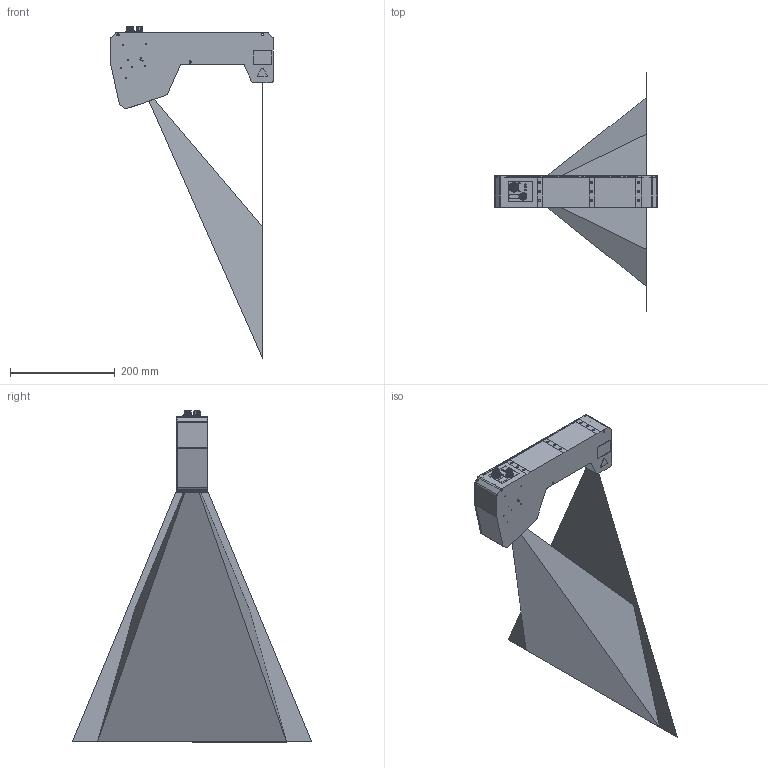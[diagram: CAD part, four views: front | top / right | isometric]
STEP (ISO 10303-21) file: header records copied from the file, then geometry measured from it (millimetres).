
FILE_DESCRIPTION(/* description */ (''),/* implementation_level */ '2;1');
FILE_NAME(/* name */ 'C6-S7-4090-CS-30-288-400-SX-1G-XXX-XX_Public.iam.stp',/* time_stamp */ '2025-06-16T08:44:39+02:00',/* author */ ('AT'),/* organization */ ('Automation Technology GmbH'),/* preprocessor_version */ 'ST-DEVELOPER v20',/* originating_system */ 'Autodesk Inventor 2024',/* authorisation */ '');
FILE_SCHEMA (('AUTOMOTIVE_DESIGN { 1 0 10303 214 3 1 1 }'));
Products named in the file (20): C6-S7-4090-CS-30-288-400-SX-1G-XXX-XX_Public; SACC-DSI-FS-8CON-L180_SCO SH_1553860-01; SACC-DSI-FS-8CON-L180_SCO SH_1553860_Stecker; SACC-DSI-FS-8CON-L180_SCO SH_1553860_Mutter; SACC-DSI-FS-8CON-L180_SCO SH_1553860_Kunststoffeinsatz; SACC-DSI-MS-17CON-M12 SCO SH_1437119-01; SACC-DSI-MS-17CON-M12 SCO SH_1437119_Stecker; SACC-DSI-MS-17CON-M12 SCO SH_1437119_Mutter; SACC-DSI-MS-17CON-M12 SCO SH_1437119_Pins; SACC-DSI-MS-17CON-M12 SCO SH_1437119_Kunststoffeinsatz; EO: 48-924; Glasscheibe2Zollx1; Screw GB/T 2672 M2,5 x 6; Screw GB/T 2672 M2,5 x 4; 1292.6001; 202209000-201; 202209000-203; 202202010-010; 202190016-009; C6-S7-4090-CS-30-288-400-SX-1G-XXX-XX_Strahlengang
Assembly tree (41 placements, depth 3):
  C6-S7-4090-CS-30-288-400-SX-1G-XXX-XX_Public
    Screw GB/T 2672 M2,5 x 6  x12
    SACC-DSI-FS-8CON-L180_SCO SH_1553860-01
      SACC-DSI-FS-8CON-L180_SCO SH_1553860_Stecker
      SACC-DSI-FS-8CON-L180_SCO SH_1553860_Mutter
      SACC-DSI-FS-8CON-L180_SCO SH_1553860_Kunststoffeinsatz
    SACC-DSI-MS-17CON-M12 SCO SH_1437119-01
      SACC-DSI-MS-17CON-M12 SCO SH_1437119_Stecker
      SACC-DSI-MS-17CON-M12 SCO SH_1437119_Mutter
      SACC-DSI-MS-17CON-M12 SCO SH_1437119_Pins
      SACC-DSI-MS-17CON-M12 SCO SH_1437119_Kunststoffeinsatz
    EO: 48-924
    Glasscheibe2Zollx1
    Screw GB/T 2672 M2,5 x 4  x8
    1292.6001  x5
    202209000-201
    202209000-203
    202202010-010
    202190016-009
    C6-S7-4090-CS-30-288-400-SX-1G-XXX-XX_Strahlengang
Bounding box: 310 x 455.92 x 632.8 mm (x, y, z)
Volume: 5990357.5 mm3; surface area: 655002.6 mm2
Topology: 56 solids, 57 shells, 2662 faces, 6434 edges, 3988 vertices
Faces by surface type: cylinder 1214, plane 996, bspline 181, cone 122, torus 95, sphere 54
Full cylindrical faces by diameter (mm): 0.217 x1, 0.6 x25, 0.63 x34, 0.9 x8, 1 x10, 1.1 x17, 1.2 x17, 1.5 x5, 1.567 x10, 1.6 x5, 2 x13, 2.013 x36, 2.208 x20, 2.4 x20, 2.5 x20, 2.6 x17, 2.8 x8, 4 x3, 4.134 x6, 4.4 x3, 5 x20, 5.2 x12, 5.5 x8, 7.7 x1, 8.25 x2, 8.3 x1, 8.7 x1, 10.5 x1, 10.7 x3, 10.917 x2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
Entity records: 93234 total; most frequent: CARTESIAN_POINT 46569, DIRECTION 9256, ORIENTED_EDGE 9248, EDGE_CURVE 4626, AXIS2_PLACEMENT_3D 3411, VERTEX_POINT 3050, LINE 2434, VECTOR 2434
